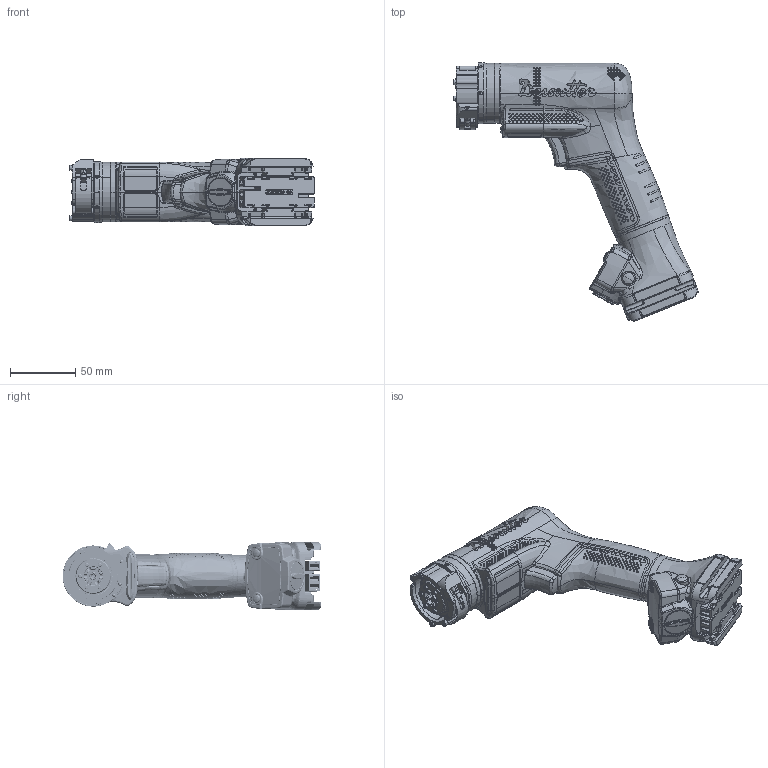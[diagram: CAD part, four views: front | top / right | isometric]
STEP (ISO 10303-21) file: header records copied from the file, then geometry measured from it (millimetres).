
FILE_DESCRIPTION((''),'2;1');
FILE_NAME('6151762310_DIM','2023-09-01T16:41:22',('S00000450'),(''),'CREO PARAMETRIC BY PTC INC, 2022414','CREO PARAMETRIC BY PTC INC, 2022414','');
FILE_SCHEMA(('CONFIG_CONTROL_DESIGN'));
Products named in the file (1): 6151762310_DIM
Bounding box: 188.06 x 198.77 x 52.1 mm (x, y, z)
Surface area: 72418.2 mm2 (no closed solid volume)
Topology: 0 solids, 405 shells, 2443 faces, 9487 edges, 7210 vertices
Faces by surface type: bspline 1138, cylinder 607, plane 361, cone 131, torus 96, extrusion 64, sphere 42, revolution 4
Entity records: 181128 total; most frequent: CARTESIAN_POINT 116328, ORIENTED_EDGE 13601, EDGE_CURVE 9467, DIRECTION 8790, VERTEX_POINT 7210, B_SPLINE_CURVE_WITH_KNOTS 5155, AXIS2_PLACEMENT_3D 3105, EDGE_LOOP 3029
